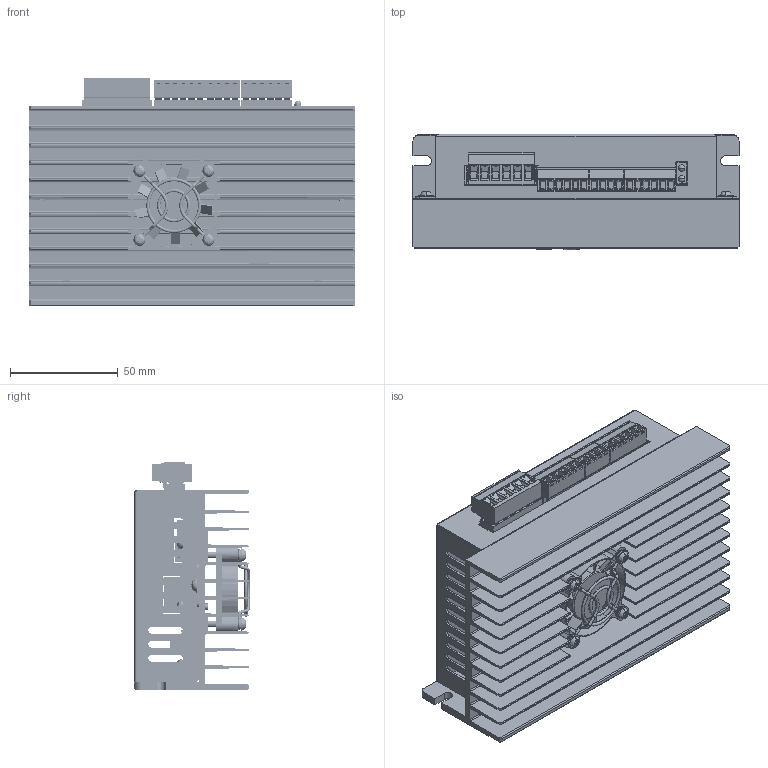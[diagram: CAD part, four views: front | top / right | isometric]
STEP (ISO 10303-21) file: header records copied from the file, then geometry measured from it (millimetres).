
FILE_DESCRIPTION((''),'2;1');
FILE_NAME('PRT0001','2024-10-31T13:40:46',('Admin'),(''),'CREO PARAMETRIC BY PTC INC, 2020074','CREO PARAMETRIC BY PTC INC, 2020074','');
FILE_SCHEMA(('CONFIG_CONTROL_DESIGN'));
Products named in the file (1): PRT0001
Bounding box: 151.2 x 53.5 x 105.46 mm (x, y, z)
Volume: 172686 mm3; surface area: 193950.9 mm2
Topology: 11 solids, 26 shells, 7531 faces, 21047 edges, 13949 vertices
Faces by surface type: plane 5857, cylinder 1300, cone 154, torus 152, bspline 36, sphere 28, extrusion 4
Entity records: 245031 total; most frequent: CARTESIAN_POINT 50181, ORIENTED_EDGE 42042, DIRECTION 37907, EDGE_CURVE 21021, VECTOR 16245, LINE 16241, VERTEX_POINT 13949, AXIS2_PLACEMENT_3D 10831
